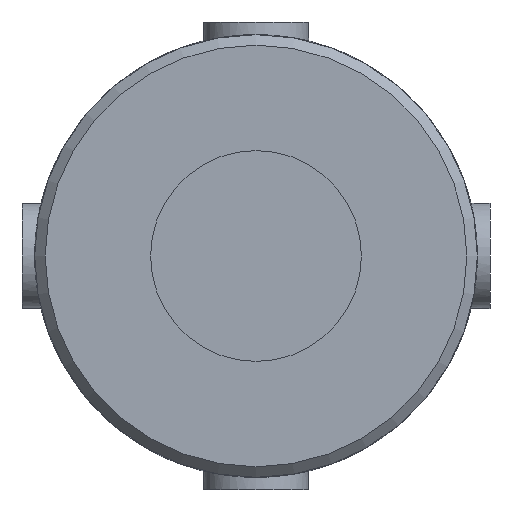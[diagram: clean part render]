
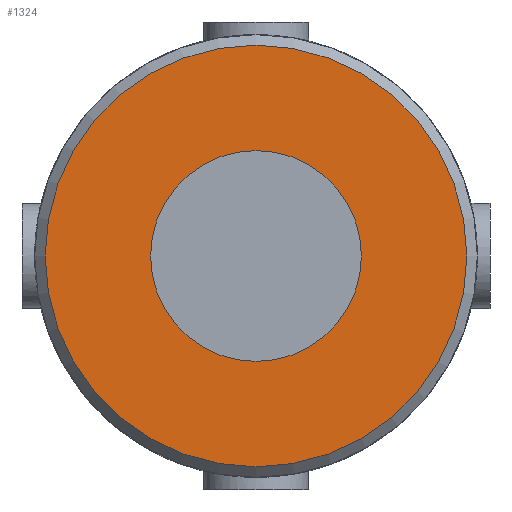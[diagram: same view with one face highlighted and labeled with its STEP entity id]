
A CAD part, front view. The second image highlights one B-rep face of the part: STEP entity #1324.
In plain terms, the highlighted planar face has unit normal (0, -1, 0).
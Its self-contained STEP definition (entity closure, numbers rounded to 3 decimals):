
#196=PLANE('',#1455);
#308=FACE_BOUND('',#485,.T.);
#374=FACE_OUTER_BOUND('',#484,.T.);
#484=EDGE_LOOP('',(#1155));
#485=EDGE_LOOP('',(#1156));
#552=CIRCLE('',#1450,10.);
#554=CIRCLE('',#1453,20.);
#664=VERTEX_POINT('',#2591);
#666=VERTEX_POINT('',#2596);
#831=EDGE_CURVE('',#664,#664,#552,.T.);
#833=EDGE_CURVE('',#666,#666,#554,.T.);
#1155=ORIENTED_EDGE('',*,*,#833,.F.);
#1156=ORIENTED_EDGE('',*,*,#831,.T.);
#1324=ADVANCED_FACE('',(#374,#308),#196,.F.);
#1450=AXIS2_PLACEMENT_3D('',#2592,#1736,#1737);
#1453=AXIS2_PLACEMENT_3D('',#2597,#1742,#1743);
#1455=AXIS2_PLACEMENT_3D('',#2773,#1750,#1751);
#1736=DIRECTION('center_axis',(0.,1.,0.));
#1737=DIRECTION('ref_axis',(-1.,0.,0.));
#1742=DIRECTION('center_axis',(0.,1.,0.));
#1743=DIRECTION('ref_axis',(1.,0.,0.));
#1750=DIRECTION('center_axis',(0.,1.,0.));
#1751=DIRECTION('ref_axis',(0.,0.,1.));
#2591=CARTESIAN_POINT('',(10.,-51.,0.));
#2592=CARTESIAN_POINT('Origin',(0.,-51.,0.));
#2596=CARTESIAN_POINT('',(-20.,-51.,0.));
#2597=CARTESIAN_POINT('Origin',(0.,-51.,0.));
#2773=CARTESIAN_POINT('Origin',(0.,-51.,0.));
